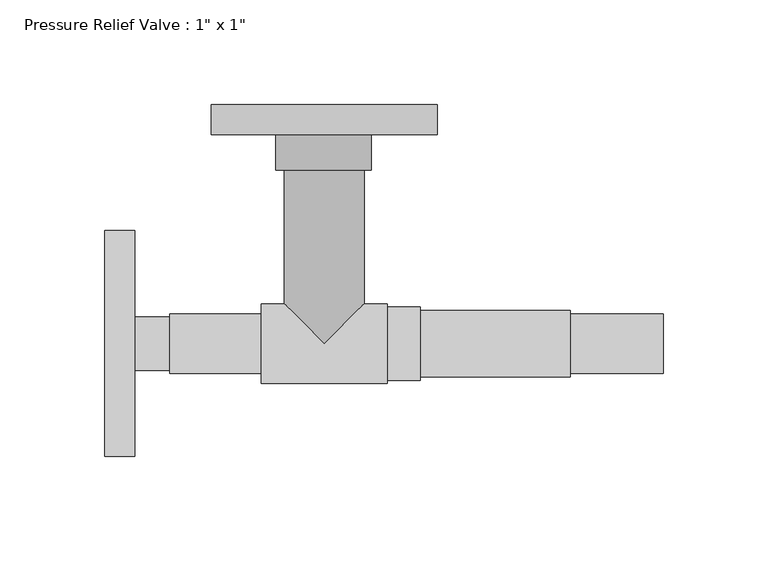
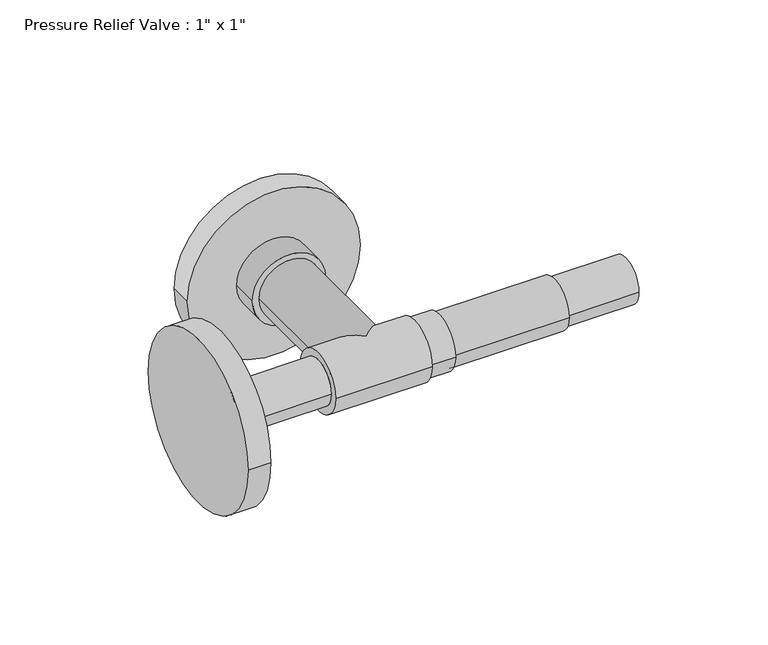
"""IFC4 building model written with IfcOpenShell, lengths in millimetres: valve geometry."""

from ifc_helpers import new_model, si_unit, point, frame, frame_2d, origin, place, context, project, spatial, circle_curve, ellipse_curve, trimmed, segment, composite_curve, outline, extrude, source, transform, mapped, element, save
from ifc_brep_helpers import plane_surface, cylinder_surface, advanced_brep


def valve_e02da511(model_context):
    return source(origin(), model_context, "Body", "SolidModel", [
        advanced_brep(
        [(30.1625, -19.05, 0.0), (30.1625, 19.05, 0.0), (30.1625, 17.4625, 0.0), (30.1625, -17.4625, 0.0), (-30.1625, -19.05, 0.0), (-30.1625, 19.05, 0.0), (-30.1625, -14.2875, 0.0), (-30.1625, 14.2875, 0.0), (-19.05, 19.05, 0.0), (0.0, 0.0, -19.05), (19.05, 19.05, 0.0), (0.0, 0.0, 19.05), (-90.5867187, -12.7, 0.0), (-90.5867187, 12.7, 0.0), (-73.895712, 12.7, 0.0), (-73.895712, -12.7, 0.0), (19.05, 82.9273723, 0.0), (-19.05, 82.9273723, 0.0), (22.4890133, 100.0125, 0.0), (-23.2309867, 100.0125, 0.0), (22.4890133, 82.9273723, 0.0), (-23.2309867, 82.9273723, 0.0), (117.475, -15.875, 0.0), (117.475, 15.875, 0.0), (117.475, 14.2875, 0.0), (117.475, -14.2875, 0.0), (45.72, -15.875, 0.0), (45.72, 15.875, 0.0), (161.925, -14.2875, 0.0), (161.925, 14.2875, 0.0), (-73.895712, -14.2875, 0.0), (-73.895712, 14.2875, 0.0), (45.72, -17.4625, 0.0), (45.72, 17.4625, 0.0)],
        [
            (0, 1, circle_curve(frame((30.1625, 0.0, 0.0), z_axis=(1.0, 0.0, 0.0), x_axis=(0.0, 1.0, 0.0)), 19.05)),
            (1, 0, circle_curve(frame((30.1625, 0.0, 0.0), z_axis=(1.0, 0.0, 0.0), x_axis=(0.0, 1.0, 0.0)), 19.05)),
            (2, 3, circle_curve(frame((30.1625, 0.0, 0.0), z_axis=(-1.0, 0.0, 0.0), x_axis=(0.0, 1.0, 0.0)), 17.4625)),
            (3, 2, circle_curve(frame((30.1625, 0.0, 0.0), z_axis=(-1.0, 0.0, 0.0), x_axis=(0.0, 1.0, 0.0)), 17.4625)),
            (4, 5, circle_curve(frame((-30.1625, 0.0, 0.0), z_axis=(-1.0, 0.0, 0.0), x_axis=(0.0, 1.0, 0.0)), 19.05)),
            (5, 4, circle_curve(frame((-30.1625, 0.0, 0.0), z_axis=(-1.0, 0.0, 0.0), x_axis=(0.0, 1.0, 0.0)), 19.05)),
            (6, 7, circle_curve(frame((-30.1625, 0.0, 0.0), z_axis=(1.0, 0.0, 0.0), x_axis=(0.0, 1.0, 0.0)), 14.2875)),
            (7, 6, circle_curve(frame((-30.1625, 0.0, 0.0), z_axis=(1.0, 0.0, 0.0), x_axis=(0.0, 1.0, 0.0)), 14.2875)),
            (0, 4),
            (5, 8),
            (8, 9, ellipse_curve(frame((0.0, 0.0, 0.0), z_axis=(-0.7071067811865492, -0.7071067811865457, 0.0), x_axis=(0.7071067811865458, -0.7071067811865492, 0.0)), 26.9407684, 19.05)),
            (9, 10, ellipse_curve(frame((0.0, 0.0, 0.0), z_axis=(0.7071067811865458, -0.7071067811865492, 0.0), x_axis=(0.7071067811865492, 0.7071067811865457, 0.0)), 26.9407684, 19.05)),
            (10, 1),
            (10, 11, ellipse_curve(frame((0.0, 0.0, 0.0), z_axis=(0.7071067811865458, -0.7071067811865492, 0.0), x_axis=(0.7071067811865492, 0.7071067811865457, 0.0)), 26.9407684, 19.05)),
            (11, 8, ellipse_curve(frame((0.0, 0.0, 0.0), z_axis=(-0.7071067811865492, -0.7071067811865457, 0.0), x_axis=(0.7071067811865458, -0.7071067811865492, 0.0)), 26.9407684, 19.05)),
            (12, 13, circle_curve(frame((-90.5867187, 0.0, 0.0), z_axis=(-1.0, 0.0, 0.0), x_axis=(0.0, 1.0, 0.0)), 12.7)),
            (13, 12, circle_curve(frame((-90.5867187, 0.0, 0.0), z_axis=(-1.0, 0.0, 0.0), x_axis=(0.0, 1.0, 0.0)), 12.7)),
            (13, 14),
            (14, 15, circle_curve(frame((-73.895712, 0.0, 0.0), z_axis=(-1.0, 0.0, 0.0), x_axis=(0.0, 1.0, 0.0)), 12.7)),
            (15, 12),
            (15, 14, circle_curve(frame((-73.895712, 0.0, 0.0), z_axis=(-1.0, 0.0, 0.0), x_axis=(0.0, 1.0, 0.0)), 12.7)),
            (16, 10),
            (8, 17),
            (17, 16, circle_curve(frame((0.0, 82.9273723, 0.0), z_axis=(0.0, -1.0, 0.0), x_axis=(-1.0, 0.0, 0.0)), 19.05)),
            (16, 17, circle_curve(frame((0.0, 82.9273723, 0.0), z_axis=(0.0, -1.0, 0.0), x_axis=(-1.0, 0.0, 0.0)), 19.05)),
            (18, 19, circle_curve(frame((-0.3709867, 100.0125, 0.0), z_axis=(0.0, 1.0, 0.0), x_axis=(-1.0, 0.0, 0.0)), 22.86)),
            (19, 18, circle_curve(frame((-0.3709867, 100.0125, 0.0), z_axis=(0.0, 1.0, 0.0), x_axis=(-1.0, 0.0, 0.0)), 22.86)),
            (20, 21, circle_curve(frame((-0.3709867, 82.9273723, 0.0), z_axis=(0.0, -1.0, 0.0), x_axis=(-1.0, 0.0, 0.0)), 22.86)),
            (21, 20, circle_curve(frame((-0.3709867, 82.9273723, 0.0), z_axis=(0.0, -1.0, 0.0), x_axis=(-1.0, 0.0, 0.0)), 22.86)),
            (18, 20),
            (21, 19),
            (22, 23, circle_curve(frame((117.475, 0.0, 0.0), z_axis=(1.0, 0.0, 0.0), x_axis=(0.0, 1.0, 0.0)), 15.875)),
            (23, 22, circle_curve(frame((117.475, 0.0, 0.0), z_axis=(1.0, 0.0, 0.0), x_axis=(0.0, 1.0, 0.0)), 15.875)),
            (24, 25, circle_curve(frame((117.475, 0.0, 0.0), z_axis=(-1.0, 0.0, 0.0), x_axis=(0.0, 1.0, 0.0)), 14.2875)),
            (25, 24, circle_curve(frame((117.475, 0.0, 0.0), z_axis=(-1.0, 0.0, 0.0), x_axis=(0.0, 1.0, 0.0)), 14.2875)),
            (22, 26),
            (26, 27, circle_curve(frame((45.72, 0.0, 0.0), z_axis=(1.0, 0.0, 0.0), x_axis=(0.0, 1.0, 0.0)), 15.875)),
            (27, 23),
            (27, 26, circle_curve(frame((45.72, 0.0, 0.0), z_axis=(1.0, 0.0, 0.0), x_axis=(0.0, 1.0, 0.0)), 15.875)),
            (28, 29, circle_curve(frame((161.925, 0.0, 0.0), z_axis=(1.0, 0.0, 0.0), x_axis=(0.0, 1.0, 0.0)), 14.2875)),
            (29, 28, circle_curve(frame((161.925, 0.0, 0.0), z_axis=(1.0, 0.0, 0.0), x_axis=(0.0, 1.0, 0.0)), 14.2875)),
            (28, 25),
            (24, 29),
            (30, 31, circle_curve(frame((-73.895712, 0.0, 0.0), z_axis=(-1.0, 0.0, 0.0), x_axis=(0.0, 1.0, 0.0)), 14.2875)),
            (31, 30, circle_curve(frame((-73.895712, 0.0, 0.0), z_axis=(-1.0, 0.0, 0.0), x_axis=(0.0, 1.0, 0.0)), 14.2875)),
            (31, 7),
            (6, 30),
            (32, 33, circle_curve(frame((45.72, 0.0, 0.0), z_axis=(1.0, 0.0, 0.0), x_axis=(0.0, 1.0, 0.0)), 17.4625)),
            (33, 32, circle_curve(frame((45.72, 0.0, 0.0), z_axis=(1.0, 0.0, 0.0), x_axis=(0.0, 1.0, 0.0)), 17.4625)),
            (32, 3),
            (2, 33),
        ],
        [
            plane_surface(frame((30.1625, 19.05, 0.0), z_axis=(1.0, 0.0, 0.0), x_axis=(0.0, 0.0, 1.0))),
            plane_surface(frame((-30.1625, 19.05, 0.0), z_axis=(-1.0, 0.0, 0.0), x_axis=(0.0, 0.0, -1.0))),
            cylinder_surface(frame((-30.1625, 0.0, 0.0), z_axis=(1.0, 0.0, 0.0), x_axis=(0.0, 1.0, 0.0)), 19.05),
            plane_surface(frame((-90.5867187, 12.7, 0.0), z_axis=(-1.0, 0.0, 0.0), x_axis=(0.0, 0.0, -1.0))),
            cylinder_surface(frame((-90.5867187, 0.0, 0.0), z_axis=(1.0, 0.0, 0.0), x_axis=(0.0, 1.0, 0.0)), 12.7),
            cylinder_surface(frame((0.0, 0.0, 0.0), z_axis=(0.0, 1.0, 0.0), x_axis=(-1.0, 0.0, 0.0)), 19.05),
            plane_surface(frame((-23.2309867, 100.0125, 0.0), z_axis=(0.0, 1.0, 0.0), x_axis=(0.0, 0.0, 1.0))),
            plane_surface(frame((-23.2309867, 82.9273723, 0.0), z_axis=(0.0, -1.0, 0.0), x_axis=(0.0, 0.0, -1.0))),
            cylinder_surface(frame((-0.3709867, 82.9273723, 0.0), z_axis=(0.0, 1.0, 0.0), x_axis=(-1.0, 0.0, 0.0)), 22.86),
            plane_surface(frame((117.475, 15.875, 0.0), z_axis=(1.0, 0.0, 0.0), x_axis=(0.0, 0.0, 1.0))),
            cylinder_surface(frame((45.72, 0.0, 0.0), z_axis=(1.0, 0.0, 0.0), x_axis=(0.0, 1.0, 0.0)), 15.875),
            plane_surface(frame((161.925, 14.2875, 0.0), z_axis=(1.0, 0.0, 0.0), x_axis=(0.0, 0.0, 1.0))),
            cylinder_surface(frame((117.475, 0.0, 0.0), z_axis=(1.0, 0.0, 0.0), x_axis=(0.0, 1.0, 0.0)), 14.2875),
            plane_surface(frame((-73.895712, 14.2875, 0.0), z_axis=(-1.0, 0.0, 0.0), x_axis=(0.0, 0.0, -1.0))),
            cylinder_surface(frame((-73.895712, 0.0, 0.0), z_axis=(1.0, 0.0, 0.0), x_axis=(0.0, 1.0, 0.0)), 14.2875),
            plane_surface(frame((45.72, 17.4625, 0.0), z_axis=(1.0, 0.0, 0.0), x_axis=(0.0, 0.0, 1.0))),
            cylinder_surface(frame((30.1625, 0.0, 0.0), z_axis=(1.0, 0.0, 0.0), x_axis=(0.0, 1.0, 0.0)), 17.4625),
        ],
        [
            (0, [[1, 2], [3, 4]]),
            (1, [[5, 6], [7, 8]]),
            (2, [[-1, 9, -6, 10, 11, 12, 13]]),
            (2, [[-2, -13, 14, 15, -10, -5, -9]]),
            (3, [[16, 17]]),
            (4, [[-17, 18, 19, 20]]),
            (4, [[-16, -20, 21, -18]]),
            (5, [[22, -12, -11, 23, 24]]),
            (5, [[-22, 25, -23, -15, -14]]),
            (6, [[26, 27]]),
            (7, [[28, 29], [-24, -25]]),
            (8, [[-26, 30, -29, 31]]),
            (8, [[-27, -31, -28, -30]]),
            (9, [[32, 33], [34, 35]]),
            (10, [[-32, 36, 37, 38]]),
            (10, [[-33, -38, 39, -36]]),
            (11, [[40, 41]]),
            (12, [[-40, 42, -34, 43]]),
            (12, [[-41, -43, -35, -42]]),
            (13, [[44, 45], [-19, -21]]),
            (14, [[-45, 46, -7, 47]]),
            (14, [[-44, -47, -8, -46]]),
            (15, [[48, 49], [-37, -39]]),
            (16, [[-48, 50, -3, 51]]),
            (16, [[-49, -51, -4, -50]]),
        ],
    ),
        extrude(outline(composite_curve([segment(trimmed(circle_curve(frame_2d((0.0, 0.0407802)), 53.975), [point((0.0, -53.9342198))], [point((0.0, 54.0157802))], False, "CARTESIAN"), True, "CONTINUOUS"), segment(trimmed(circle_curve(frame_2d((0.0, 0.0407802)), 53.975), [point((0.0, 54.0157802))], [point((0.0, -53.9342198))], False, "CARTESIAN"), True, "CONTINUOUS")], self_intersect=False)), frame((0.0, 100.0125, 0.0), z_axis=(0.0, 1.0, 0.0), x_axis=(0.0, 0.0, 1.0)), (0.0, 0.0, 1.0), 14.2875),
        extrude(outline(composite_curve([segment(trimmed(circle_curve(frame_2d((0.1263037, 0.0)), 53.975), [point((-53.8486963, 0.0))], [point((54.1013037, 0.0))], False, "CARTESIAN"), True, "CONTINUOUS"), segment(trimmed(circle_curve(frame_2d((0.1263037, 0.0)), 53.975), [point((54.1013037, 0.0))], [point((-53.8486963, 0.0))], False, "CARTESIAN"), True, "CONTINUOUS")], self_intersect=False)), frame((-104.8742187, 0.0, 0.0), z_axis=(1.0, 0.0, 0.0), x_axis=(0.0, 1.0, 0.0)), (0.0, 0.0, 1.0), 14.2875),
    ])


if __name__ == "__main__":
    model = new_model("IFC4")
    model_context = context("Model", 3, world=origin())
    ifc_project = project(units=[si_unit("LENGTHUNIT", "METRE", prefix="MILLI")], contexts=[model_context])
    site = spatial("IfcSite", under=ifc_project)
    building = spatial("IfcBuilding", under=site)
    placement = place(None, origin())
    valve_shape = valve_e02da511(model_context)
    element("IfcValve", 1, ObjectType="Pressure Relief Valve : 1\" x 1\"", at=placement, inside=building, context=model_context, shape_type="MappedRepresentation", body=[
        mapped(valve_shape, transform((0.0, 0.0, 0.0), x_axis=(1.0, 0.0, 0.0), y_axis=(0.0, 1.0, 0.0), z_axis=(0.0, 0.0, 1.0))),
    ])
    save(model, "model.ifc")
